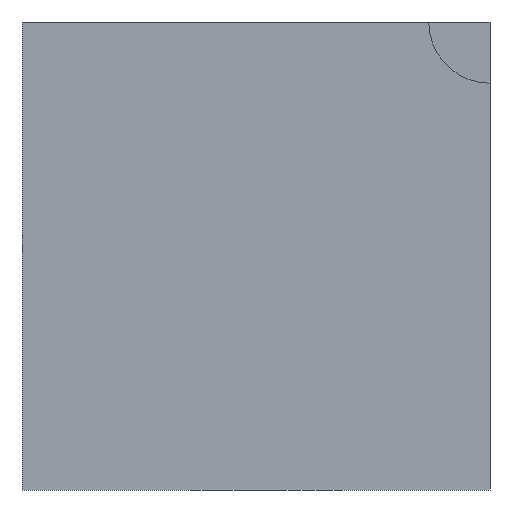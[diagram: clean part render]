
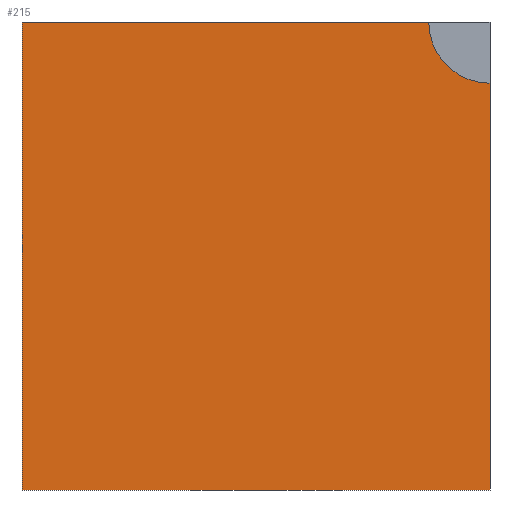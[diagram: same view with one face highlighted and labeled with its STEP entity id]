
A CAD part, front view. The second image highlights one B-rep face of the part: STEP entity #215.
In plain terms, the highlighted planar face has unit normal (0, -1, 0).
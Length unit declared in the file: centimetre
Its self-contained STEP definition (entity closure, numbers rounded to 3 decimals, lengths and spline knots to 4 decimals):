
#4 = VECTOR ( 'NONE', #524, 100. ) ;
#35 = VERTEX_POINT ( 'NONE', #392 ) ;
#42 = CARTESIAN_POINT ( 'NONE',  ( 0., 0., 0. ) ) ;
#53 = DIRECTION ( 'NONE',  ( 0., 0., -1. ) ) ;
#55 = EDGE_CURVE ( 'NONE', #125, #352, #539, .T. ) ;
#67 = LINE ( 'NONE', #496, #651 ) ;
#77 = VECTOR ( 'NONE', #423, 100. ) ;
#101 = DIRECTION ( 'NONE',  ( 0., 1., 0. ) ) ;
#104 = ORIENTED_EDGE ( 'NONE', *, *, #207, .F. ) ;
#106 = DIRECTION ( 'NONE',  ( 0., 0., 1. ) ) ;
#121 = EDGE_CURVE ( 'NONE', #125, #230, #67, .T. ) ;
#125 = VERTEX_POINT ( 'NONE', #499 ) ;
#164 = ORIENTED_EDGE ( 'NONE', *, *, #650, .T. ) ;
#207 = EDGE_CURVE ( 'NONE', #230, #418, #532, .T. ) ;
#215 = ADVANCED_FACE ( 'NONE', ( #660 ), #663, .F. ) ;
#230 = VERTEX_POINT ( 'NONE', #248 ) ;
#248 = CARTESIAN_POINT ( 'NONE',  ( 869.0838, 0., 1000. ) ) ;
#252 = CARTESIAN_POINT ( 'NONE',  ( 0., 0., 1000. ) ) ;
#256 = CARTESIAN_POINT ( 'NONE',  ( 1000., 0., 869.0838 ) ) ;
#264 = DIRECTION ( 'NONE',  ( 1., 0., 0. ) ) ;
#269 = CARTESIAN_POINT ( 'NONE',  ( 0., 0., 1000. ) ) ;
#271 = CARTESIAN_POINT ( 'NONE',  ( 1000., 0., 1000. ) ) ;
#297 = ORIENTED_EDGE ( 'NONE', *, *, #55, .T. ) ;
#314 = LINE ( 'NONE', #271, #4 ) ;
#321 = AXIS2_PLACEMENT_3D ( 'NONE', #456, #616, #53 ) ;
#352 = VERTEX_POINT ( 'NONE', #526 ) ;
#356 = EDGE_CURVE ( 'NONE', #418, #35, #314, .T. ) ;
#380 = ORIENTED_EDGE ( 'NONE', *, *, #356, .F. ) ;
#392 = CARTESIAN_POINT ( 'NONE',  ( 1000., 0., 0. ) ) ;
#404 = DIRECTION ( 'NONE',  ( 1., 0., 0. ) ) ;
#418 = VERTEX_POINT ( 'NONE', #256 ) ;
#423 = DIRECTION ( 'NONE',  ( 0., 0., -1. ) ) ;
#456 = CARTESIAN_POINT ( 'NONE',  ( 1000., 0., 1000. ) ) ;
#496 = CARTESIAN_POINT ( 'NONE',  ( 0., 0., 1000. ) ) ;
#499 = CARTESIAN_POINT ( 'NONE',  ( 0., 0., 1000. ) ) ;
#500 = AXIS2_PLACEMENT_3D ( 'NONE', #252, #101, #106 ) ;
#501 = VECTOR ( 'NONE', #404, 100. ) ;
#515 = ORIENTED_EDGE ( 'NONE', *, *, #121, .F. ) ;
#524 = DIRECTION ( 'NONE',  ( 0., 0., -1. ) ) ;
#526 = CARTESIAN_POINT ( 'NONE',  ( 0., 0., 0. ) ) ;
#532 = CIRCLE ( 'NONE', #321, 130.9162 ) ;
#539 = LINE ( 'NONE', #269, #77 ) ;
#553 = LINE ( 'NONE', #42, #501 ) ;
#584 = EDGE_LOOP ( 'NONE', ( #380, #104, #515, #297, #164 ) ) ;
#616 = DIRECTION ( 'NONE',  ( 0., -1., 0. ) ) ;
#650 = EDGE_CURVE ( 'NONE', #352, #35, #553, .T. ) ;
#651 = VECTOR ( 'NONE', #264, 100. ) ;
#660 = FACE_OUTER_BOUND ( 'NONE', #584, .T. ) ;
#663 = PLANE ( 'NONE',  #500 ) ;
